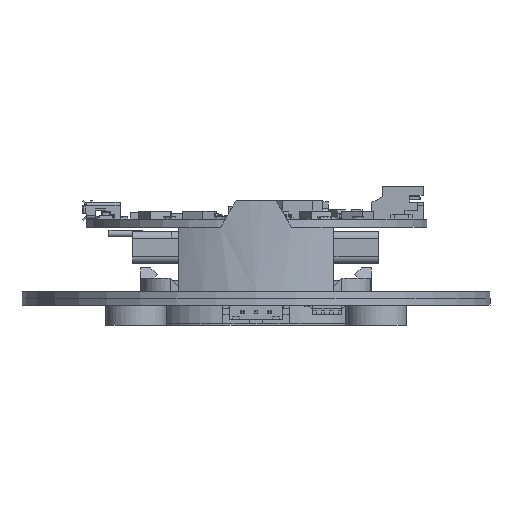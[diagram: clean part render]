
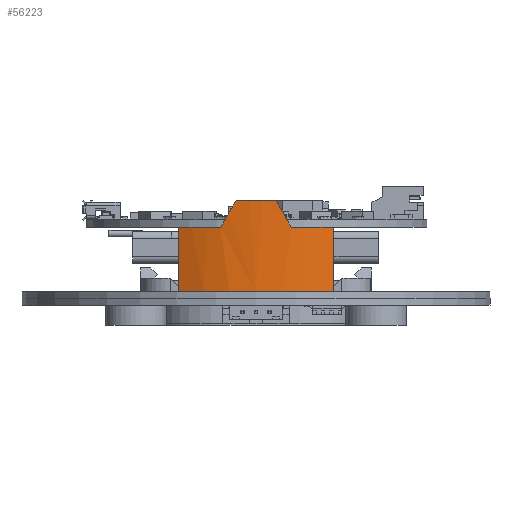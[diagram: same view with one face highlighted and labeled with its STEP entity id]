
A CAD part, front view. The second image highlights one B-rep face of the part: STEP entity #56223.
In plain terms, the highlighted cylindrical face has radius 27 mm (diameter 54 mm), a partial arc.
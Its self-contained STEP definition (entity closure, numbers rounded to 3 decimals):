
#471=ELLIPSE('',#61002,54.,27.);
#473=ELLIPSE('',#61012,54.,27.);
#6046=FACE_OUTER_BOUND('',#9335,.T.);
#9335=EDGE_LOOP('',(#51448,#51449,#51450,#51451,#51452,#51453,#51454,#51455));
#15601=LINE('',#93381,#21900);
#15602=LINE('',#93383,#21901);
#21900=VECTOR('',#75852,10.);
#21901=VECTOR('',#75855,10.);
#23368=CIRCLE('',#60959,27.);
#23388=CIRCLE('',#61010,27.);
#23393=CIRCLE('',#61019,27.);
#23394=CIRCLE('',#61021,27.);
#28310=VERTEX_POINT('',#93097);
#28311=VERTEX_POINT('',#93099);
#28342=VERTEX_POINT('',#93215);
#28343=VERTEX_POINT('',#93216);
#28351=VERTEX_POINT('',#93246);
#28352=VERTEX_POINT('',#93250);
#28358=VERTEX_POINT('',#93264);
#28359=VERTEX_POINT('',#93268);
#35972=EDGE_CURVE('',#28310,#28311,#23368,.T.);
#36031=EDGE_CURVE('',#28342,#28343,#471,.T.);
#36042=EDGE_CURVE('',#28342,#28351,#23388,.T.);
#36044=EDGE_CURVE('',#28352,#28351,#473,.F.);
#36052=EDGE_CURVE('',#28358,#28343,#23393,.T.);
#36053=EDGE_CURVE('',#28352,#28359,#23394,.T.);
#36106=EDGE_CURVE('',#28310,#28359,#15601,.T.);
#36107=EDGE_CURVE('',#28311,#28358,#15602,.T.);
#51448=ORIENTED_EDGE('',*,*,#36052,.F.);
#51449=ORIENTED_EDGE('',*,*,#36107,.F.);
#51450=ORIENTED_EDGE('',*,*,#35972,.F.);
#51451=ORIENTED_EDGE('',*,*,#36106,.T.);
#51452=ORIENTED_EDGE('',*,*,#36053,.F.);
#51453=ORIENTED_EDGE('',*,*,#36044,.T.);
#51454=ORIENTED_EDGE('',*,*,#36042,.F.);
#51455=ORIENTED_EDGE('',*,*,#36031,.T.);
#52534=CYLINDRICAL_SURFACE('',#61069,27.);
#56223=ADVANCED_FACE('',(#6046),#52534,.T.);
#60959=AXIS2_PLACEMENT_3D('',#93100,#75561,#75562);
#61002=AXIS2_PLACEMENT_3D('',#93217,#75689,#75690);
#61010=AXIS2_PLACEMENT_3D('',#93247,#75707,#75708);
#61012=AXIS2_PLACEMENT_3D('',#93251,#75712,#75713);
#61019=AXIS2_PLACEMENT_3D('',#93266,#75728,#75729);
#61021=AXIS2_PLACEMENT_3D('',#93269,#75732,#75733);
#61069=AXIS2_PLACEMENT_3D('',#93382,#75853,#75854);
#75561=DIRECTION('center_axis',(0.,0.,-1.));
#75562=DIRECTION('ref_axis',(1.,0.,0.));
#75689=DIRECTION('center_axis',(0.861,-0.095,-0.5));
#75690=DIRECTION('ref_axis',(0.497,-0.055,0.866));
#75707=DIRECTION('center_axis',(0.,0.,1.));
#75708=DIRECTION('ref_axis',(0.,-1.,0.));
#75712=DIRECTION('center_axis',(0.861,0.095,0.5));
#75713=DIRECTION('ref_axis',(0.497,0.055,-0.866));
#75728=DIRECTION('center_axis',(0.,0.,1.));
#75729=DIRECTION('ref_axis',(1.,0.,0.));
#75732=DIRECTION('center_axis',(0.,0.,1.));
#75733=DIRECTION('ref_axis',(1.,0.,0.));
#75852=DIRECTION('',(0.,0.,1.));
#75853=DIRECTION('center_axis',(0.,0.,1.));
#75854=DIRECTION('ref_axis',(1.,0.,0.));
#75855=DIRECTION('',(0.,0.,1.));
#93097=CARTESIAN_POINT('',(11.5,-24.428,1.));
#93099=CARTESIAN_POINT('',(-11.5,-24.428,1.));
#93100=CARTESIAN_POINT('Origin',(0.,0.,1.));
#93215=CARTESIAN_POINT('',(-2.964,-26.837,14.5));
#93216=CARTESIAN_POINT('',(-5.248,-26.485,10.5));
#93217=CARTESIAN_POINT('Origin',(0.,0.,14.5));
#93246=CARTESIAN_POINT('',(2.964,-26.837,14.5));
#93247=CARTESIAN_POINT('Origin',(0.,0.,
14.5));
#93250=CARTESIAN_POINT('',(5.248,-26.485,10.5));
#93251=CARTESIAN_POINT('Origin',(0.,0.,14.5));
#93264=CARTESIAN_POINT('',(-11.5,-24.428,10.5));
#93266=CARTESIAN_POINT('Origin',(0.,0.,10.5));
#93268=CARTESIAN_POINT('',(11.5,-24.428,10.5));
#93269=CARTESIAN_POINT('Origin',(0.,0.,10.5));
#93381=CARTESIAN_POINT('',(11.5,-24.428,1.));
#93382=CARTESIAN_POINT('Origin',(0.,0.,1.));
#93383=CARTESIAN_POINT('',(-11.5,-24.428,1.));
